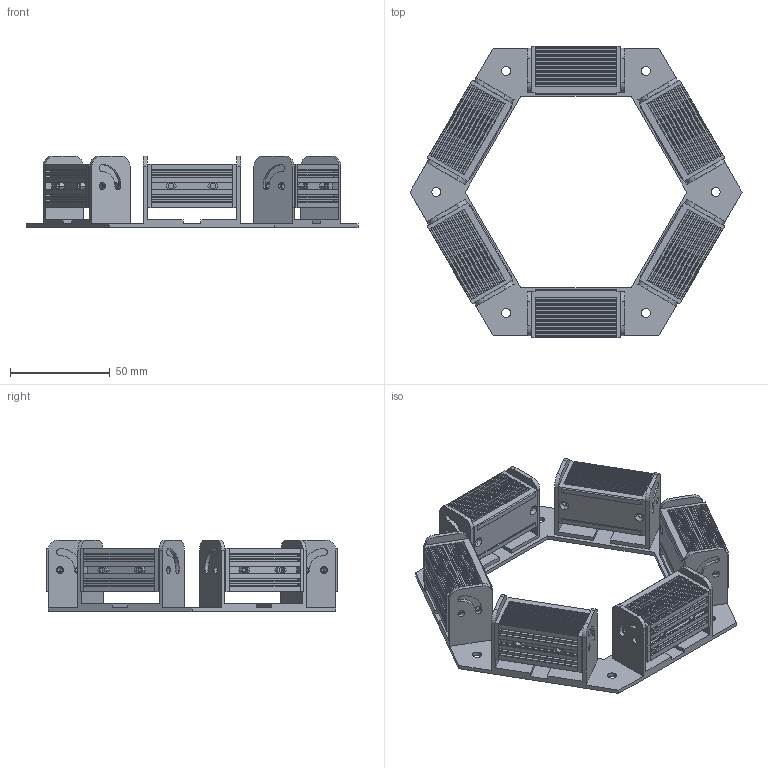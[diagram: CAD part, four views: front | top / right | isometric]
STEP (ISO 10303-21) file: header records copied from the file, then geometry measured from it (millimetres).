
FILE_DESCRIPTION((''),'2;1');
FILE_NAME('MSL-102-102_ASM','2020-03-26T',('ASUS'),(''),'PRO/ENGINEER BY PARAMETRIC TECHNOLOGY CORPORATION, 2008380','PRO/ENGINEER BY PARAMETRIC TECHNOLOGY CORPORATION, 2008380','');
FILE_SCHEMA(('CONFIG_CONTROL_DESIGN'));
Length unit declared in the file: millimetre
Products named in the file (3): PRT0002; PRT0012; MSL-102-102_ASM
Assembly tree (7 placements, depth 2):
  MSL-102-102_ASM
    PRT0002
    PRT0012  x6
Bounding box: 166.28 x 146.04 x 36 mm (x, y, z)
Volume: 170346.3 mm3; surface area: 96353.4 mm2
Topology: 7 solids, 31 shells, 1826 faces, 4944 edges, 3288 vertices
Faces by surface type: plane 1082, cylinder 624, cone 120
Entity records: 15411 total; most frequent: CARTESIAN_POINT 2828, DIRECTION 2632, ORIENTED_EDGE 2576, EDGE_CURVE 1296, AXIS2_PLACEMENT_3D 882, VECTOR 868, LINE 868, VERTEX_POINT 868
